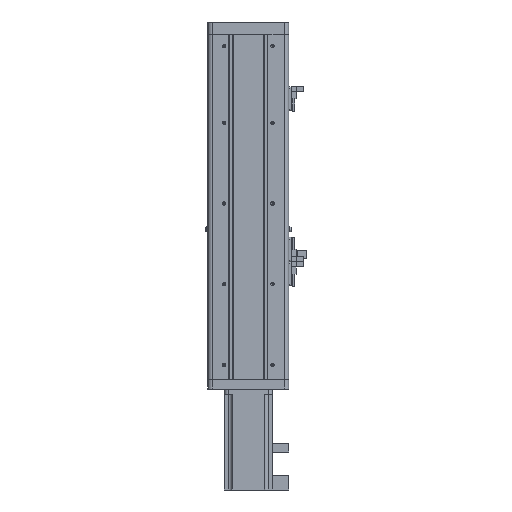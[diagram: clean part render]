
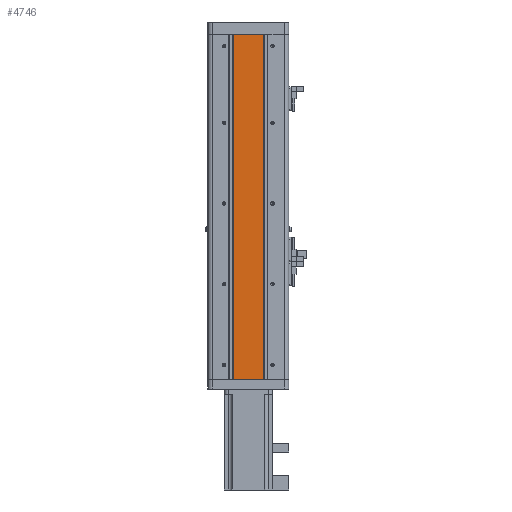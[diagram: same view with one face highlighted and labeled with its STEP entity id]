
A CAD part, front view. The second image highlights one B-rep face of the part: STEP entity #4746.
In plain terms, the highlighted planar face has unit normal (0, -1, 0).
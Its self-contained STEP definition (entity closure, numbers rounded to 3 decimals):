
#4633 = ORIENTED_EDGE ( 'NONE', *, *, #4634, .F. ) ;
#4634 = EDGE_CURVE ( 'NONE', #4744, #4635, #20385, .T. ) ;
#4635 = VERTEX_POINT ( 'NONE', #20381 ) ;
#4636 = VERTEX_POINT ( 'NONE', #20380 ) ;
#4720 = EDGE_CURVE ( 'NONE', #4636, #4744, #20600, .T. ) ;
#4744 = VERTEX_POINT ( 'NONE', #20535 ) ;
#4746 = ADVANCED_FACE ( 'NONE', ( #20534 ), #20753, .F. ) ;
#4747 = EDGE_LOOP ( 'NONE', ( #4633, #4755, #4756, #4770 ) ) ;
#4755 = ORIENTED_EDGE ( 'NONE', *, *, #4720, .F. ) ;
#4756 = ORIENTED_EDGE ( 'NONE', *, *, #4769, .T. ) ;
#4757 = VERTEX_POINT ( 'NONE', #20948 ) ;
#4769 = EDGE_CURVE ( 'NONE', #4636, #4757, #20912, .T. ) ;
#4770 = ORIENTED_EDGE ( 'NONE', *, *, #4771, .F. ) ;
#4771 = EDGE_CURVE ( 'NONE', #4635, #4757, #20885, .T. ) ;
#20380 = CARTESIAN_POINT ( 'NONE',  ( 12.63, -29.672, 428. ) ) ;
#20381 = CARTESIAN_POINT ( 'NONE',  ( -25.17, -29.672, 0. ) ) ;
#20382 = DIRECTION ( 'NONE',  ( -1., 0., 0. ) ) ;
#20383 = VECTOR ( 'NONE', #20382, 1000. ) ;
#20384 = CARTESIAN_POINT ( 'NONE',  ( -45.27, -29.672, 0. ) ) ;
#20385 = LINE ( 'NONE', #20384, #20383 ) ;
#20534 = FACE_OUTER_BOUND ( 'NONE', #4747, .T. ) ;
#20535 = CARTESIAN_POINT ( 'NONE',  ( 12.63, -29.672, 0. ) ) ;
#20597 = DIRECTION ( 'NONE',  ( 0., 0., -1. ) ) ;
#20598 = VECTOR ( 'NONE', #20597, 1000. ) ;
#20599 = CARTESIAN_POINT ( 'NONE',  ( 12.63, -29.672, 428. ) ) ;
#20600 = LINE ( 'NONE', #20599, #20598 ) ;
#20753 = PLANE ( 'NONE',  #20876 ) ;
#20873 = DIRECTION ( 'NONE',  ( -1., 0., 0. ) ) ;
#20874 = DIRECTION ( 'NONE',  ( 0., 1., 0. ) ) ;
#20875 = CARTESIAN_POINT ( 'NONE',  ( -51.27, -29.672, 0. ) ) ;
#20876 = AXIS2_PLACEMENT_3D ( 'NONE', #20875, #20874, #20873 ) ;
#20882 = DIRECTION ( 'NONE',  ( 0., 0., 1. ) ) ;
#20883 = VECTOR ( 'NONE', #20882, 1000. ) ;
#20884 = CARTESIAN_POINT ( 'NONE',  ( -25.17, -29.672, 428. ) ) ;
#20885 = LINE ( 'NONE', #20884, #20883 ) ;
#20909 = DIRECTION ( 'NONE',  ( -1., 0., 0. ) ) ;
#20910 = VECTOR ( 'NONE', #20909, 1000. ) ;
#20911 = CARTESIAN_POINT ( 'NONE',  ( -51.27, -29.672, 428. ) ) ;
#20912 = LINE ( 'NONE', #20911, #20910 ) ;
#20948 = CARTESIAN_POINT ( 'NONE',  ( -25.17, -29.672, 428. ) ) ;
